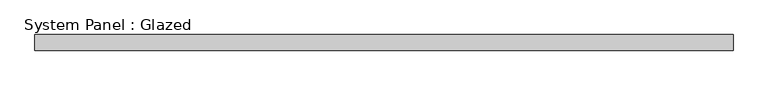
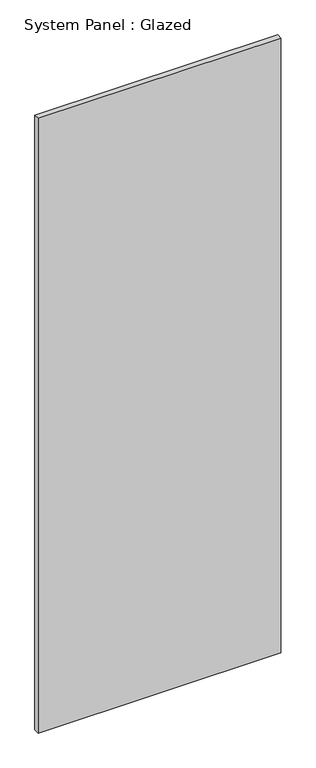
"""IFC4 building model written with IfcOpenShell, lengths in millimetres: plate geometry, System Panel : Glazed."""

from ifc_helpers import new_model, si_unit, origin, origin_with_axes, place, context, project, spatial, polyline, outline, extrude, source, transform, mapped, element, save


def system_panel_glazed_7219f0cf(model_context):
    return source(origin(), model_context, "Body", "SweptSolid", [
        extrude(outline(polyline([(557.2124999, -44.45), (-557.2124999, -44.45), (-557.2124999, -19.05), (557.2124999, -19.05), (557.2124999, -44.45)])), origin_with_axes(), (0.0, 0.0, 1.0), 2984.5),
    ])


if __name__ == "__main__":
    model = new_model("IFC4")
    model_context = context("Model", 3, world=origin())
    ifc_project = project(units=[si_unit("LENGTHUNIT", "METRE", prefix="MILLI")], contexts=[model_context])
    site = spatial("IfcSite", under=ifc_project)
    building = spatial("IfcBuilding", under=site)
    placement = place(None, origin())
    system_panel_glazed_shape = system_panel_glazed_7219f0cf(model_context)
    element("IfcPlate", 1, ObjectType="System Panel : Glazed", at=placement, inside=building, context=model_context, shape_type="MappedRepresentation", body=[
        mapped(system_panel_glazed_shape, transform((0.0, 0.0, 0.0), x_axis=(1.0, 0.0, 0.0), y_axis=(0.0, 1.0, 0.0), z_axis=(0.0, 0.0, 1.0))),
    ])
    save(model, "model.ifc")
